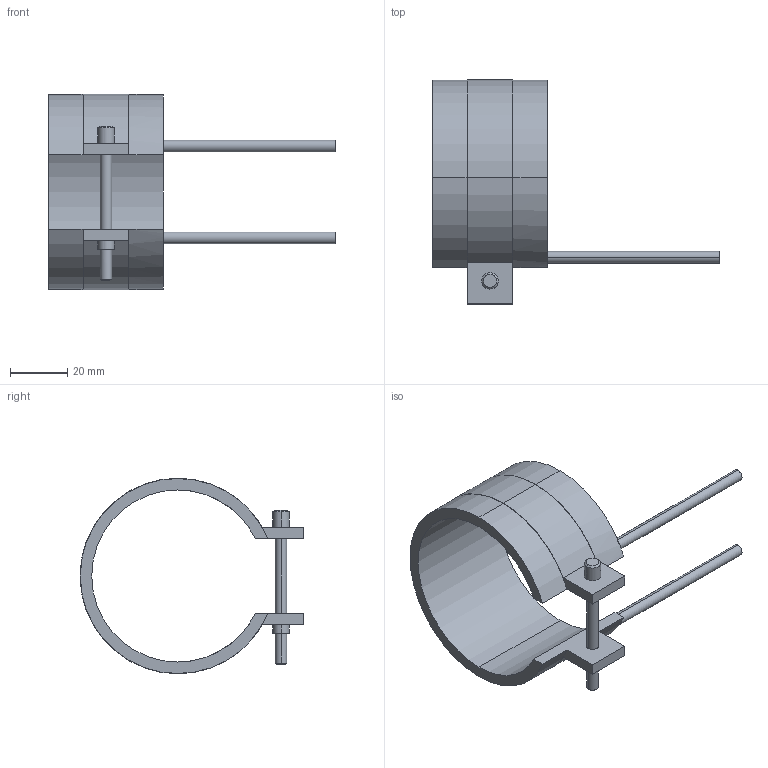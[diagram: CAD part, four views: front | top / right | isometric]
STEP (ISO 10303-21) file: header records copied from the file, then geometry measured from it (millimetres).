
FILE_DESCRIPTION(('CATIA V5 STEP Exchange'),'2;1');
FILE_NAME('C:\Users\Utente\Desktop\IO LAVORO\3D X SITO CF\X SITO\PLASTICA\RF2\14060040.stp','2021-03-31T12:49:20+00:00',('none'),('none'),'CATIA Version 5 Release 20 GA (IN-10)','CATIA V5 STEP AP203','none');
FILE_SCHEMA(('CONFIG_CONTROL_DESIGN'));
Length unit declared in the file: millimetre
Products named in the file (1): 14060040
Bounding box: 100 x 78.1 x 68.2 mm (x, y, z)
Volume: 32099.4 mm3; surface area: 18896.5 mm2
Topology: 1 solids, 1 shells, 45 faces, 116 edges, 76 vertices
Faces by surface type: cylinder 24, plane 17, cone 4
Entity records: 1406 total; most frequent: CARTESIAN_POINT 280, ORIENTED_EDGE 232, DIRECTION 196, EDGE_CURVE 116, AXIS2_PLACEMENT_3D 104, VERTEX_POINT 76, CIRCLE 62, VECTOR 52
